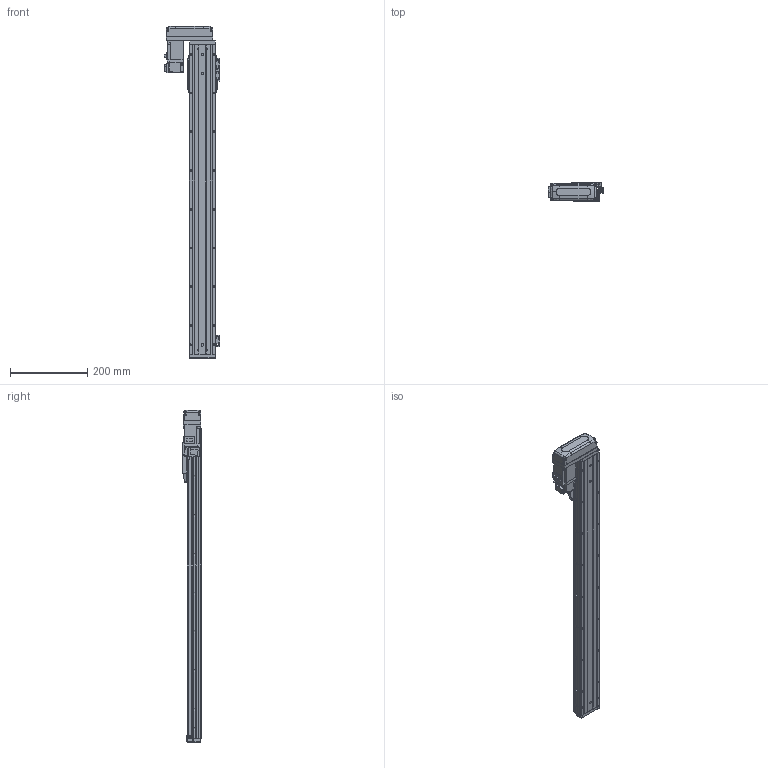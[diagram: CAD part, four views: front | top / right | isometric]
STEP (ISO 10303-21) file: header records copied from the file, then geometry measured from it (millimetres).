
FILE_DESCRIPTION (( 'STEP AP203' ), '1' );
FILE_NAME ('CTHA60-650-BR-M10-C4L.step', '2022-03-19T06:22:59', ( '微软用户' ), ( '微软中国' ), 'SwSTEP 2.0', 'SolidWorks 2020', '' );
FILE_SCHEMA (( 'CONFIG_CONTROL_DESIGN' ));
Length unit declared in the file: millimetre
Products named in the file (18): HG-KR13（三菱）; GB¨uT 70.2-M3¡Á6_M3¡Á6; CTHA60-002; EE_SX911P_R; CTHA60-031; CTHA60-017; GBT77-2000 M3×3; CTHA60-006-1; CTHA60-021; GBT 70.1-M3℅6; CTHA60-001_800; CTHA60-033; GBT 70.1-M4×16; GBT 70.3-M3℅6; CTHA60-004; CTHA60-650-BR-M10-C4L; CTHA60-016; CTHA60-005
Assembly tree (54 placements, depth 2):
  CTHA60-650-BR-M10-C4L
    CTHA60-001_800
    CTHA60-004
    CTHA60-005
    GB¨uT 70.2-M3¡Á6_M3¡Á6  x10
    EE_SX911P_R  x3
    CTHA60-017  x3
    CTHA60-021  x2
    GBT 70.1-M4×16  x10
    GBT77-2000 M3×3  x6
    GBT 70.1-M3℅6  x6
    GBT 70.3-M3℅6  x4
    CTHA60-016  x2
    HG-KR13（三菱）
    CTHA60-002
    CTHA60-031
    CTHA60-006-1
    CTHA60-033
Bounding box: 143.62 x 48 x 857 mm (x, y, z)
Volume: 1470858.3 mm3; surface area: 439682.6 mm2
Topology: 56 solids, 56 shells, 2554 faces, 6149 edges, 3793 vertices
Faces by surface type: plane 1473, cylinder 589, cone 344, torus 92, bspline 32, sphere 24
Entity records: 46303 total; most frequent: CARTESIAN_POINT 8922, DIRECTION 7166, ORIENTED_EDGE 7106, EDGE_CURVE 3553, LINE 2526, VECTOR 2526, AXIS2_PLACEMENT_3D 2320, VERTEX_POINT 2252
